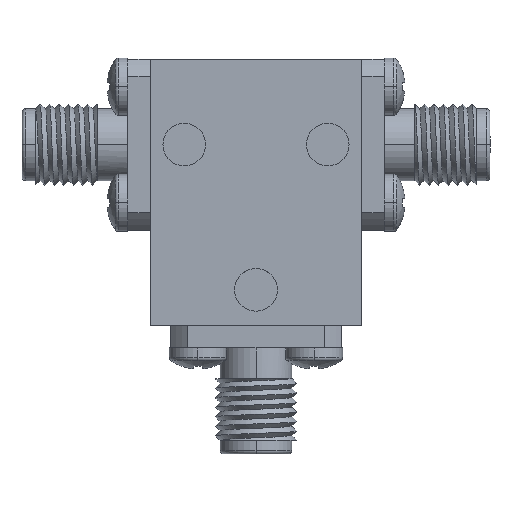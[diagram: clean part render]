
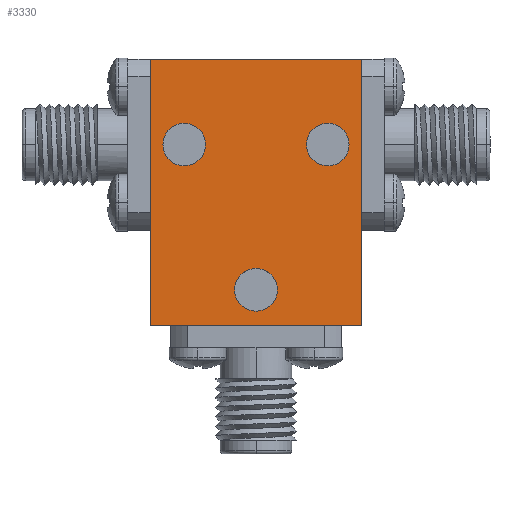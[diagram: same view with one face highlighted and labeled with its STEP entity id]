
A CAD part, top view. The second image highlights one B-rep face of the part: STEP entity #3330.
In plain terms, the highlighted planar face has unit normal (0, 0, 1).
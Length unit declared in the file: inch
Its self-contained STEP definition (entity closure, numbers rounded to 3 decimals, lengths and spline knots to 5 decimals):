
#13 = CARTESIAN_POINT ( 'NONE',  ( 0., 0., 0.25 ) ) ;
#32 = EDGE_CURVE ( 'NONE', #2385, #2043, #3313, .T. ) ;
#106 = CIRCLE ( 'NONE', #1993, 0.0625 ) ;
#280 = VERTEX_POINT ( 'NONE', #511 ) ;
#396 = FACE_BOUND ( 'NONE', #3168, .T. ) ;
#442 = CARTESIAN_POINT ( 'NONE',  ( -0.31, -0.39, 0.25 ) ) ;
#448 = FACE_OUTER_BOUND ( 'NONE', #2266, .T. ) ;
#511 = CARTESIAN_POINT ( 'NONE',  ( 0.31, 0.39, 0.25 ) ) ;
#526 = EDGE_CURVE ( 'NONE', #3300, #535, #106, .T. ) ;
#535 = VERTEX_POINT ( 'NONE', #1768 ) ;
#588 = DIRECTION ( 'NONE',  ( 1., 0., 0. ) ) ;
#598 = CARTESIAN_POINT ( 'NONE',  ( -0.31, 0.39, 0.25 ) ) ;
#639 = DIRECTION ( 'NONE',  ( 0., 0., 1. ) ) ;
#651 = DIRECTION ( 'NONE',  ( 1., 0., 0. ) ) ;
#678 = EDGE_CURVE ( 'NONE', #966, #1147, #2917, .T. ) ;
#857 = DIRECTION ( 'NONE',  ( 0., 0., 1. ) ) ;
#883 = VECTOR ( 'NONE', #3094, 39.37008 ) ;
#966 = VERTEX_POINT ( 'NONE', #3621 ) ;
#1147 = VERTEX_POINT ( 'NONE', #3408 ) ;
#1171 = FACE_BOUND ( 'NONE', #2563, .T. ) ;
#1221 = EDGE_CURVE ( 'NONE', #2306, #1509, #1928, .T. ) ;
#1224 = DIRECTION ( 'NONE',  ( 0., 0., 1. ) ) ;
#1322 = EDGE_CURVE ( 'NONE', #535, #3300, #1972, .T. ) ;
#1470 = DIRECTION ( 'NONE',  ( 0., 0., 1. ) ) ;
#1481 = CARTESIAN_POINT ( 'NONE',  ( 0.31, 0.39, 0.25 ) ) ;
#1509 = VERTEX_POINT ( 'NONE', #3015 ) ;
#1603 = DIRECTION ( 'NONE',  ( 0., 0., 1. ) ) ;
#1658 = CARTESIAN_POINT ( 'NONE',  ( -0.21, 0.14, 0.25 ) ) ;
#1738 = ORIENTED_EDGE ( 'NONE', *, *, #3205, .T. ) ;
#1768 = CARTESIAN_POINT ( 'NONE',  ( -0.0625, -0.285, 0.25 ) ) ;
#1781 = DIRECTION ( 'NONE',  ( 1., 0., 0. ) ) ;
#1816 = EDGE_LOOP ( 'NONE', ( #2648, #2318 ) ) ;
#1849 = ORIENTED_EDGE ( 'NONE', *, *, #3586, .F. ) ;
#1904 = ORIENTED_EDGE ( 'NONE', *, *, #2169, .T. ) ;
#1928 = CIRCLE ( 'NONE', #3218, 0.0625 ) ;
#1972 = CIRCLE ( 'NONE', #3155, 0.0625 ) ;
#1993 = AXIS2_PLACEMENT_3D ( 'NONE', #2334, #1470, #1781 ) ;
#2003 = FACE_BOUND ( 'NONE', #1816, .T. ) ;
#2043 = VERTEX_POINT ( 'NONE', #2285 ) ;
#2092 = VECTOR ( 'NONE', #2512, 39.37008 ) ;
#2169 = EDGE_CURVE ( 'NONE', #2197, #280, #2654, .T. ) ;
#2197 = VERTEX_POINT ( 'NONE', #2410 ) ;
#2201 = VECTOR ( 'NONE', #2929, 39.37008 ) ;
#2216 = ORIENTED_EDGE ( 'NONE', *, *, #3318, .T. ) ;
#2266 = EDGE_LOOP ( 'NONE', ( #1904, #1738, #2948, #2216 ) ) ;
#2284 = ORIENTED_EDGE ( 'NONE', *, *, #32, .F. ) ;
#2285 = CARTESIAN_POINT ( 'NONE',  ( 0.2725, 0.14, 0.25 ) ) ;
#2306 = VERTEX_POINT ( 'NONE', #3500 ) ;
#2318 = ORIENTED_EDGE ( 'NONE', *, *, #1322, .F. ) ;
#2334 = CARTESIAN_POINT ( 'NONE',  ( 0., -0.285, 0.25 ) ) ;
#2385 = VERTEX_POINT ( 'NONE', #2646 ) ;
#2388 = LINE ( 'NONE', #442, #2092 ) ;
#2409 = AXIS2_PLACEMENT_3D ( 'NONE', #3007, #1224, #3281 ) ;
#2410 = CARTESIAN_POINT ( 'NONE',  ( 0.31, -0.39, 0.25 ) ) ;
#2418 = DIRECTION ( 'NONE',  ( 0., 1., 0. ) ) ;
#2475 = CIRCLE ( 'NONE', #2523, 0.0625 ) ;
#2480 = DIRECTION ( 'NONE',  ( 1., 0., 0. ) ) ;
#2512 = DIRECTION ( 'NONE',  ( 1., 0., 0. ) ) ;
#2523 = AXIS2_PLACEMENT_3D ( 'NONE', #3648, #1603, #2480 ) ;
#2563 = EDGE_LOOP ( 'NONE', ( #1849, #2284 ) ) ;
#2570 = ORIENTED_EDGE ( 'NONE', *, *, #1221, .F. ) ;
#2590 = CARTESIAN_POINT ( 'NONE',  ( 0., -0.285, 0.25 ) ) ;
#2635 = AXIS2_PLACEMENT_3D ( 'NONE', #2961, #639, #651 ) ;
#2646 = CARTESIAN_POINT ( 'NONE',  ( 0.1475, 0.14, 0.25 ) ) ;
#2648 = ORIENTED_EDGE ( 'NONE', *, *, #526, .F. ) ;
#2654 = LINE ( 'NONE', #1481, #3712 ) ;
#2769 = ORIENTED_EDGE ( 'NONE', *, *, #3711, .F. ) ;
#2917 = LINE ( 'NONE', #3671, #883 ) ;
#2929 = DIRECTION ( 'NONE',  ( -1., 0., 0. ) ) ;
#2944 = PLANE ( 'NONE',  #3783 ) ;
#2948 = ORIENTED_EDGE ( 'NONE', *, *, #678, .T. ) ;
#2961 = CARTESIAN_POINT ( 'NONE',  ( 0.21, 0.14, 0.25 ) ) ;
#2966 = LINE ( 'NONE', #598, #2201 ) ;
#2988 = CARTESIAN_POINT ( 'NONE',  ( 0.0625, -0.285, 0.25 ) ) ;
#3007 = CARTESIAN_POINT ( 'NONE',  ( 0.21, 0.14, 0.25 ) ) ;
#3015 = CARTESIAN_POINT ( 'NONE',  ( -0.1475, 0.14, 0.25 ) ) ;
#3094 = DIRECTION ( 'NONE',  ( 0., -1., 0. ) ) ;
#3155 = AXIS2_PLACEMENT_3D ( 'NONE', #2590, #3748, #3499 ) ;
#3168 = EDGE_LOOP ( 'NONE', ( #2769, #2570 ) ) ;
#3205 = EDGE_CURVE ( 'NONE', #280, #966, #2966, .T. ) ;
#3218 = AXIS2_PLACEMENT_3D ( 'NONE', #1658, #3708, #3440 ) ;
#3281 = DIRECTION ( 'NONE',  ( 1., 0., 0. ) ) ;
#3300 = VERTEX_POINT ( 'NONE', #2988 ) ;
#3313 = CIRCLE ( 'NONE', #2409, 0.0625 ) ;
#3318 = EDGE_CURVE ( 'NONE', #1147, #2197, #2388, .T. ) ;
#3330 = ADVANCED_FACE ( 'NONE', ( #1171, #2003, #396, #448 ), #2944, .T. ) ;
#3408 = CARTESIAN_POINT ( 'NONE',  ( -0.31, -0.39, 0.25 ) ) ;
#3440 = DIRECTION ( 'NONE',  ( 1., 0., 0. ) ) ;
#3470 = CIRCLE ( 'NONE', #2635, 0.0625 ) ;
#3499 = DIRECTION ( 'NONE',  ( 1., 0., 0. ) ) ;
#3500 = CARTESIAN_POINT ( 'NONE',  ( -0.2725, 0.14, 0.25 ) ) ;
#3586 = EDGE_CURVE ( 'NONE', #2043, #2385, #3470, .T. ) ;
#3621 = CARTESIAN_POINT ( 'NONE',  ( -0.31, 0.39, 0.25 ) ) ;
#3648 = CARTESIAN_POINT ( 'NONE',  ( -0.21, 0.14, 0.25 ) ) ;
#3671 = CARTESIAN_POINT ( 'NONE',  ( -0.31, 0.39, 0.25 ) ) ;
#3708 = DIRECTION ( 'NONE',  ( 0., 0., 1. ) ) ;
#3711 = EDGE_CURVE ( 'NONE', #1509, #2306, #2475, .T. ) ;
#3712 = VECTOR ( 'NONE', #2418, 39.37008 ) ;
#3748 = DIRECTION ( 'NONE',  ( 0., 0., 1. ) ) ;
#3783 = AXIS2_PLACEMENT_3D ( 'NONE', #13, #857, #588 ) ;
